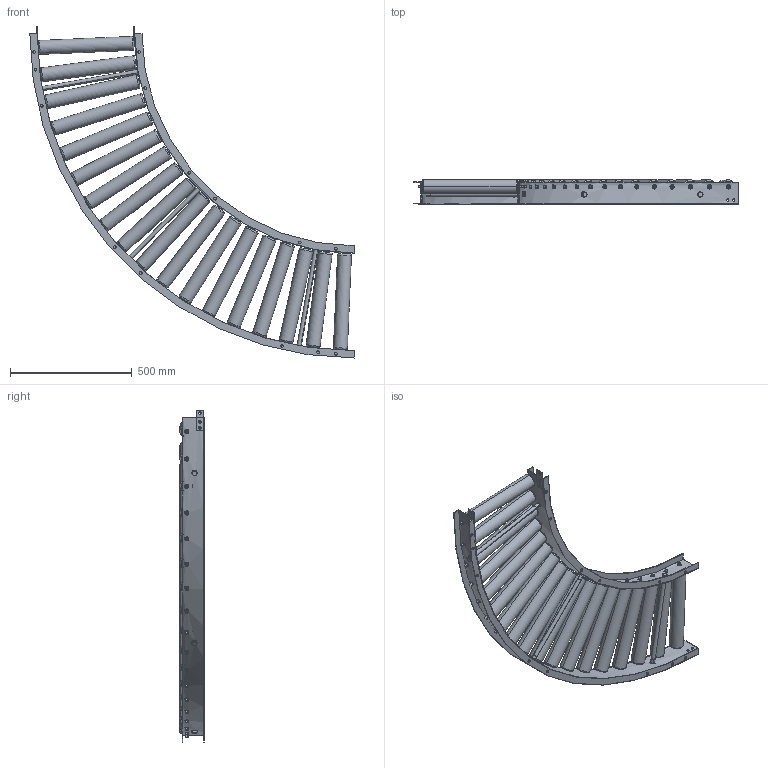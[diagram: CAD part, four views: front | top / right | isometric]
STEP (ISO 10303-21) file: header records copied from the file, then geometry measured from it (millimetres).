
FILE_DESCRIPTION (( 'STEP AP203' ), '1' );
FILE_NAME ('S-5714NB_C.step', '2024-03-02T05:09:20', ( '' ), ( '' ), 'SwSTEP 2.0', 'SolidWorks 2023', '' );
FILE_SCHEMA (( 'CONFIG_CONTROL_DESIGN' ));
Length unit declared in the file: millimetre
Products named in the file (1): S-5714NB_C
Bounding box: 1330 x 100.1 x 1361.57 mm (x, y, z)
Volume: 18854526.1 mm3; surface area: 3282844.2 mm2
Topology: 55 solids, 55 shells, 1102 faces, 2742 edges, 1792 vertices
Faces by surface type: plane 588, cylinder 406, torus 72, cone 36
Entity records: 38167 total; most frequent: CARTESIAN_POINT 11033, DIRECTION 5732, ORIENTED_EDGE 5484, EDGE_CURVE 2742, AXIS2_PLACEMENT_3D 2183, VERTEX_POINT 1792, VECTOR 1366, LINE 1366
